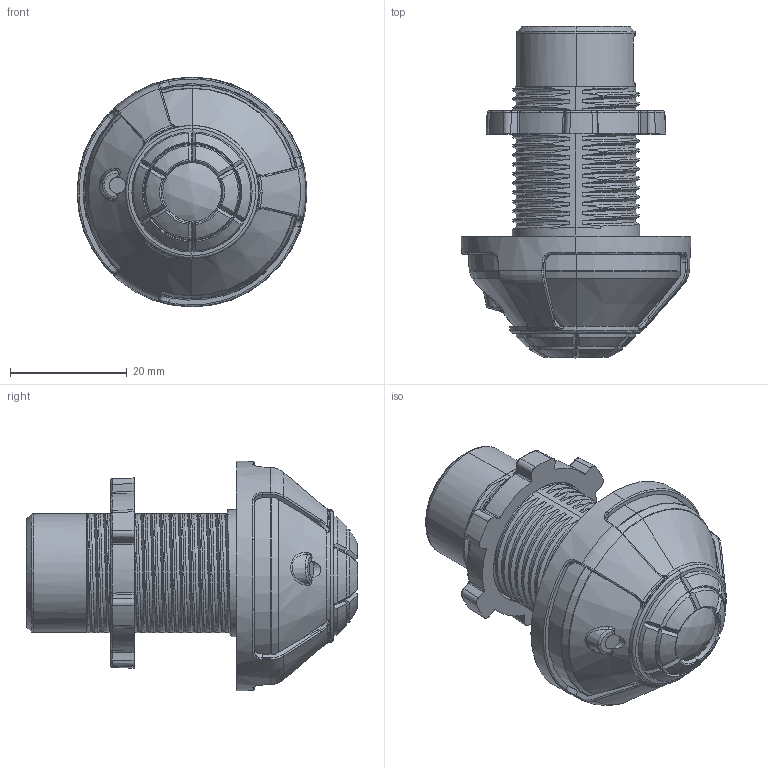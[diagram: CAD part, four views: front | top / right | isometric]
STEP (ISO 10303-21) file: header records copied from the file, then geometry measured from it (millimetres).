
FILE_DESCRIPTION (( 'STEP AP203' ), '1' );
FILE_NAME ('RA231HA8.STEP', '2021-10-15T06:38:51', ( '' ), ( '' ), 'SwSTEP 2.0', 'SolidWorks 2013', '' );
FILE_SCHEMA (( 'CONFIG_CONTROL_DESIGN' ));
Length unit declared in the file: millimetre
Products named in the file (12): RA231HA8-3__X2_76F45F915-test_0527; POWER_PCB_R9-53800; PANASONIC_HIGHBAY_PIR_LEN-27090; RA231HA8-1__X2_68768EAB52A05927; LIGHT-SENSOR-7300; WAGO_250-204_2P-805420; RA231HA8-2_CAP2-20201109.1; SMD_LED_2-966900-712710; RA231HA8; RA231HA8_R9_HST-M52832QF-708780; RA231HA8-5__X2_906E7247_-580400; RA231HA8-4A_L_20210527
Assembly tree (11 placements, depth 2):
  RA231HA8
    RA231HA8-1__X2_68768EAB52A05927
    WAGO_250-204_2P-805420
    SMD_LED_2-966900-712710
    RA231HA8_R9_HST-M52832QF-708780
    RA231HA8-5__X2_906E7247_-580400
    RA231HA8-4A_L_20210527
    RA231HA8-3__X2_76F45F915-test_0527
    POWER_PCB_R9-53800
    PANASONIC_HIGHBAY_PIR_LEN-27090
    LIGHT-SENSOR-7300
    RA231HA8-2_CAP2-20201109.1
Bounding box: 39.39 x 56.86 x 39.39 mm (x, y, z)
Volume: 15347.6 mm3; surface area: 19702.7 mm2
Topology: 11 solids, 11 shells, 1410 faces, 4029 edges, 2628 vertices
Faces by surface type: plane 485, bspline 430, cylinder 286, cone 209
Entity records: 83434 total; most frequent: CARTESIAN_POINT 51047, ORIENTED_EDGE 8008, DIRECTION 4303, EDGE_CURVE 4004, VERTEX_POINT 2628, B_SPLINE_CURVE_WITH_KNOTS 2037, AXIS2_PLACEMENT_3D 1499, EDGE_LOOP 1446
